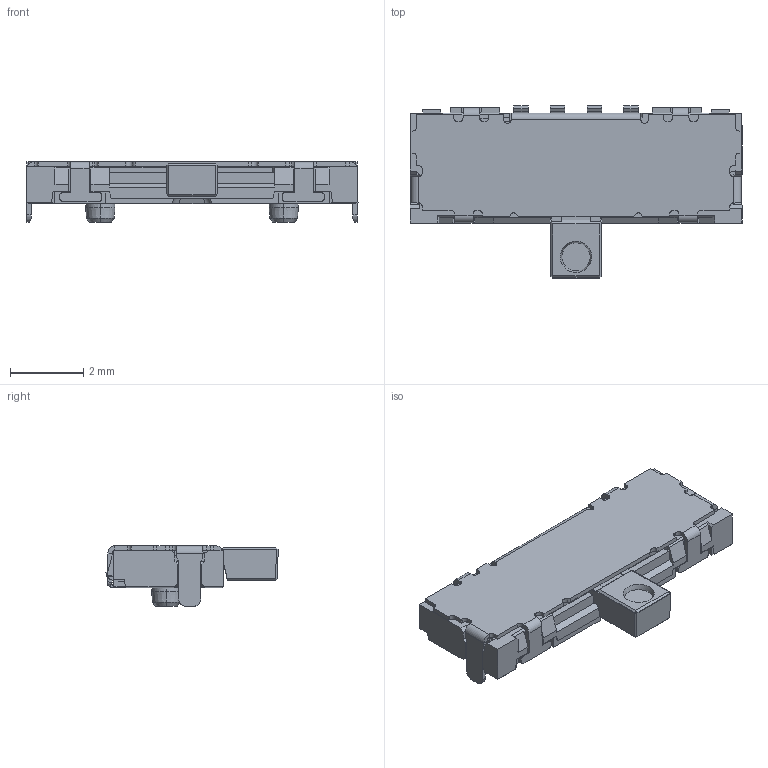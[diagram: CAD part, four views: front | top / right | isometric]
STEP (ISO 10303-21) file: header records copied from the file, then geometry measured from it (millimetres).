
FILE_DESCRIPTION (( 'STEP AP214' ), '1' );
FILE_NAME ('SSAG130200.STEP', '2011-04-22T06:41:25', ( ' ' ), ( '' ), 'SwSTEP 2.0', 'SolidWorks 2007', '' );
FILE_SCHEMA (( 'AUTOMOTIVE_DESIGN' ));
Length unit declared in the file: millimetre
Products named in the file (1): SSAG130200
Bounding box: 9.05 x 4.7 x 1.65 mm (x, y, z)
Volume: 31.4 mm3; surface area: 116.8 mm2
Topology: 1 solids, 1 shells, 697 faces, 1914 edges, 1231 vertices
Faces by surface type: plane 518, cylinder 154, cone 23, bspline 2
Entity records: 29847 total; most frequent: CARTESIAN_POINT 5090, ORIENTED_EDGE 3828, DIRECTION 3139, EDGE_CURVE 1914, VECTOR 1399, LINE 1399, VERTEX_POINT 1231, AXIS2_PLACEMENT_3D 870
